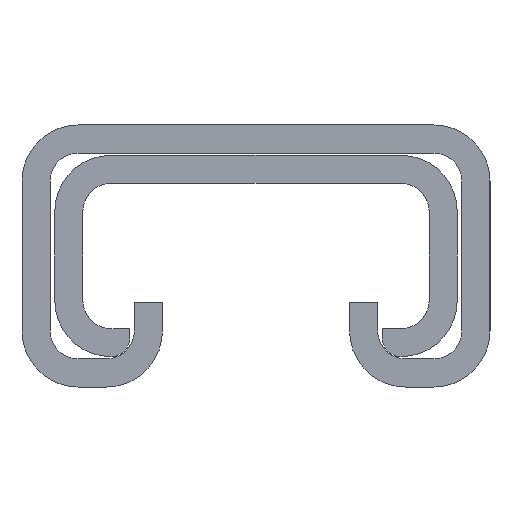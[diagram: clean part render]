
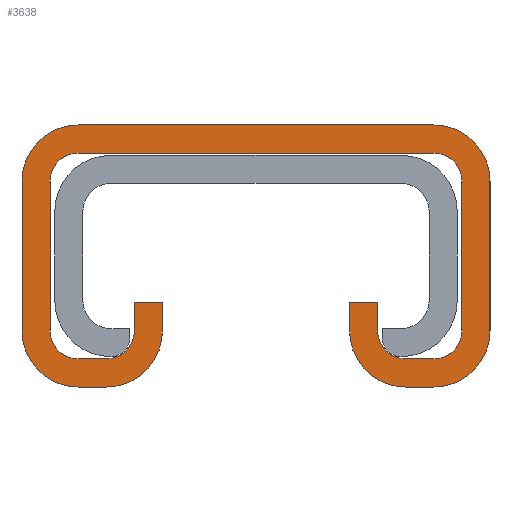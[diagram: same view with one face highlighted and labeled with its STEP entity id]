
A CAD part, left-side view. The second image highlights one B-rep face of the part: STEP entity #3638.
In plain terms, the highlighted planar face has unit normal (-1, 0, 0).
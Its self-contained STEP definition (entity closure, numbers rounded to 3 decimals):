
#186=CARTESIAN_POINT('Vertex',(0.,19.,19.)) ;
#189=CARTESIAN_POINT('Line Origine',(0.,0.,19.)) ;
#193=CARTESIAN_POINT('Vertex',(0.,-19.,19.)) ;
#1667=CARTESIAN_POINT('Vertex',(0.,25.,13.)) ;
#1670=CARTESIAN_POINT('Axis2P3D Location',(0.,19.,13.)) ;
#2030=CARTESIAN_POINT('Vertex',(0.,22.,-3.)) ;
#2044=CARTESIAN_POINT('Vertex',(0.,22.,13.)) ;
#2047=CARTESIAN_POINT('Line Origine',(0.,22.,5.)) ;
#2329=CARTESIAN_POINT('Vertex',(0.,19.,-9.)) ;
#2332=CARTESIAN_POINT('Axis2P3D Location',(0.,19.,-3.)) ;
#2336=CARTESIAN_POINT('Vertex',(0.,25.,-3.)) ;
#2446=CARTESIAN_POINT('Vertex',(0.,-19.,-9.)) ;
#2449=CARTESIAN_POINT('Line Origine',(0.,-17.5,-9.)) ;
#2453=CARTESIAN_POINT('Vertex',(0.,-16.,-9.)) ;
#2473=CARTESIAN_POINT('Axis2P3D Location',(0.,-16.,-3.)) ;
#2477=CARTESIAN_POINT('Vertex',(0.,-10.,-3.)) ;
#2497=CARTESIAN_POINT('Line Origine',(0.,-10.,-1.5)) ;
#2501=CARTESIAN_POINT('Vertex',(0.,-10.,0.)) ;
#2521=CARTESIAN_POINT('Line Origine',(0.,-11.5,0.)) ;
#2525=CARTESIAN_POINT('Vertex',(0.,-13.,0.)) ;
#2549=CARTESIAN_POINT('Vertex',(0.,-13.,-3.)) ;
#2552=CARTESIAN_POINT('Line Origine',(0.,-13.,-1.5)) ;
#2573=CARTESIAN_POINT('Vertex',(0.,-19.,-6.)) ;
#2580=CARTESIAN_POINT('Vertex',(0.,-16.,-6.)) ;
#2583=CARTESIAN_POINT('Line Origine',(0.,-17.5,-6.)) ;
#2604=CARTESIAN_POINT('Vertex',(0.,-22.,-3.)) ;
#2607=CARTESIAN_POINT('Line Origine',(0.,-22.,5.)) ;
#2611=CARTESIAN_POINT('Vertex',(0.,-22.,13.)) ;
#2689=CARTESIAN_POINT('Vertex',(0.,19.,16.)) ;
#2696=CARTESIAN_POINT('Vertex',(0.,-19.,16.)) ;
#2699=CARTESIAN_POINT('Line Origine',(0.,0.,16.)) ;
#2841=CARTESIAN_POINT('Vertex',(0.,16.,-6.)) ;
#2848=CARTESIAN_POINT('Vertex',(0.,19.,-6.)) ;
#2851=CARTESIAN_POINT('Line Origine',(0.,17.5,-6.)) ;
#2867=CARTESIAN_POINT('Vertex',(0.,13.,-3.)) ;
#2870=CARTESIAN_POINT('Line Origine',(0.,13.,-1.5)) ;
#2874=CARTESIAN_POINT('Vertex',(0.,13.,0.)) ;
#2889=CARTESIAN_POINT('Line Origine',(0.,11.5,0.)) ;
#2893=CARTESIAN_POINT('Vertex',(0.,10.,0.)) ;
#2917=CARTESIAN_POINT('Vertex',(0.,10.,-3.)) ;
#2920=CARTESIAN_POINT('Line Origine',(0.,10.,-1.5)) ;
#2937=CARTESIAN_POINT('Axis2P3D Location',(0.,16.,-3.)) ;
#2941=CARTESIAN_POINT('Vertex',(0.,16.,-9.)) ;
#2956=CARTESIAN_POINT('Line Origine',(0.,17.5,-9.)) ;
#2973=CARTESIAN_POINT('Axis2P3D Location',(0.,-19.,13.)) ;
#2977=CARTESIAN_POINT('Vertex',(0.,-25.,13.)) ;
#3001=CARTESIAN_POINT('Vertex',(0.,-25.,-3.)) ;
#3004=CARTESIAN_POINT('Line Origine',(0.,-25.,5.)) ;
#3075=CARTESIAN_POINT('Axis2P3D Location',(0.,-19.,-3.)) ;
#3501=CARTESIAN_POINT('Axis2P3D Location',(0.,16.,-3.)) ;
#3518=CARTESIAN_POINT('Axis2P3D Location',(0.,19.,-3.)) ;
#3535=CARTESIAN_POINT('Axis2P3D Location',(0.,19.,13.)) ;
#3552=CARTESIAN_POINT('Axis2P3D Location',(0.,-19.,13.)) ;
#3569=CARTESIAN_POINT('Axis2P3D Location',(0.,-19.,-3.)) ;
#3586=CARTESIAN_POINT('Axis2P3D Location',(0.,-16.,-3.)) ;
#3598=CARTESIAN_POINT('Axis2P3D Location',(0.,0.,0.)) ;
#3603=CARTESIAN_POINT('Line Origine',(0.,25.,5.)) ;
#190=DIRECTION('Vector Direction',(0.,1.,0.)) ;
#1671=DIRECTION('Axis2P3D Direction',(1.,0.,-0.)) ;
#2048=DIRECTION('Vector Direction',(0.,0.,1.)) ;
#2333=DIRECTION('Axis2P3D Direction',(1.,0.,0.)) ;
#2450=DIRECTION('Vector Direction',(0.,-1.,0.)) ;
#2474=DIRECTION('Axis2P3D Direction',(1.,0.,0.)) ;
#2498=DIRECTION('Vector Direction',(0.,0.,-1.)) ;
#2522=DIRECTION('Vector Direction',(0.,1.,0.)) ;
#2553=DIRECTION('Vector Direction',(0.,0.,1.)) ;
#2584=DIRECTION('Vector Direction',(0.,1.,0.)) ;
#2608=DIRECTION('Vector Direction',(0.,0.,-1.)) ;
#2700=DIRECTION('Vector Direction',(0.,-1.,0.)) ;
#2852=DIRECTION('Vector Direction',(0.,1.,0.)) ;
#2871=DIRECTION('Vector Direction',(0.,0.,-1.)) ;
#2890=DIRECTION('Vector Direction',(0.,1.,0.)) ;
#2921=DIRECTION('Vector Direction',(0.,0.,1.)) ;
#2938=DIRECTION('Axis2P3D Direction',(1.,0.,0.)) ;
#2957=DIRECTION('Vector Direction',(0.,-1.,0.)) ;
#2974=DIRECTION('Axis2P3D Direction',(1.,0.,0.)) ;
#3005=DIRECTION('Vector Direction',(0.,0.,1.)) ;
#3076=DIRECTION('Axis2P3D Direction',(1.,0.,0.)) ;
#3502=DIRECTION('Axis2P3D Direction',(1.,0.,0.)) ;
#3519=DIRECTION('Axis2P3D Direction',(1.,0.,0.)) ;
#3536=DIRECTION('Axis2P3D Direction',(1.,0.,0.)) ;
#3553=DIRECTION('Axis2P3D Direction',(1.,0.,-0.)) ;
#3570=DIRECTION('Axis2P3D Direction',(1.,0.,0.)) ;
#3587=DIRECTION('Axis2P3D Direction',(1.,0.,0.)) ;
#3599=DIRECTION('Axis2P3D Direction',(1.,0.,0.)) ;
#3600=DIRECTION('Axis2P3D XDirection',(0.,1.,0.)) ;
#3604=DIRECTION('Vector Direction',(0.,0.,-1.)) ;
#1672=AXIS2_PLACEMENT_3D('Circle Axis2P3D',#1670,#1671,$) ;
#2334=AXIS2_PLACEMENT_3D('Circle Axis2P3D',#2332,#2333,$) ;
#2475=AXIS2_PLACEMENT_3D('Circle Axis2P3D',#2473,#2474,$) ;
#2939=AXIS2_PLACEMENT_3D('Circle Axis2P3D',#2937,#2938,$) ;
#2975=AXIS2_PLACEMENT_3D('Circle Axis2P3D',#2973,#2974,$) ;
#3077=AXIS2_PLACEMENT_3D('Circle Axis2P3D',#3075,#3076,$) ;
#3503=AXIS2_PLACEMENT_3D('Circle Axis2P3D',#3501,#3502,$) ;
#3520=AXIS2_PLACEMENT_3D('Circle Axis2P3D',#3518,#3519,$) ;
#3537=AXIS2_PLACEMENT_3D('Circle Axis2P3D',#3535,#3536,$) ;
#3554=AXIS2_PLACEMENT_3D('Circle Axis2P3D',#3552,#3553,$) ;
#3571=AXIS2_PLACEMENT_3D('Circle Axis2P3D',#3569,#3570,$) ;
#3588=AXIS2_PLACEMENT_3D('Circle Axis2P3D',#3586,#3587,$) ;
#3601=AXIS2_PLACEMENT_3D('Plane Axis2P3D',#3598,#3599,#3600) ;
#3609=ORIENTED_EDGE('',*,*,#3079,.F.) ;
#3610=ORIENTED_EDGE('',*,*,#3008,.F.) ;
#3611=ORIENTED_EDGE('',*,*,#2979,.F.) ;
#3612=ORIENTED_EDGE('',*,*,#195,.F.) ;
#3613=ORIENTED_EDGE('',*,*,#1674,.F.) ;
#3614=ORIENTED_EDGE('',*,*,#3607,.F.) ;
#3615=ORIENTED_EDGE('',*,*,#2338,.F.) ;
#3616=ORIENTED_EDGE('',*,*,#2960,.F.) ;
#3617=ORIENTED_EDGE('',*,*,#2943,.F.) ;
#3618=ORIENTED_EDGE('',*,*,#2924,.F.) ;
#3619=ORIENTED_EDGE('',*,*,#2895,.F.) ;
#3620=ORIENTED_EDGE('',*,*,#2876,.F.) ;
#3621=ORIENTED_EDGE('',*,*,#3505,.T.) ;
#3622=ORIENTED_EDGE('',*,*,#2855,.F.) ;
#3623=ORIENTED_EDGE('',*,*,#3522,.T.) ;
#3624=ORIENTED_EDGE('',*,*,#2051,.F.) ;
#3625=ORIENTED_EDGE('',*,*,#3539,.T.) ;
#3626=ORIENTED_EDGE('',*,*,#2703,.F.) ;
#3627=ORIENTED_EDGE('',*,*,#3556,.T.) ;
#3628=ORIENTED_EDGE('',*,*,#2613,.F.) ;
#3629=ORIENTED_EDGE('',*,*,#3573,.T.) ;
#3630=ORIENTED_EDGE('',*,*,#2587,.F.) ;
#3631=ORIENTED_EDGE('',*,*,#3590,.T.) ;
#3632=ORIENTED_EDGE('',*,*,#2556,.F.) ;
#3633=ORIENTED_EDGE('',*,*,#2527,.F.) ;
#3634=ORIENTED_EDGE('',*,*,#2503,.F.) ;
#3635=ORIENTED_EDGE('',*,*,#2479,.F.) ;
#3636=ORIENTED_EDGE('',*,*,#2455,.F.) ;
#191=VECTOR('Line Direction',#190,1.) ;
#2049=VECTOR('Line Direction',#2048,1.) ;
#2451=VECTOR('Line Direction',#2450,1.) ;
#2499=VECTOR('Line Direction',#2498,1.) ;
#2523=VECTOR('Line Direction',#2522,1.) ;
#2554=VECTOR('Line Direction',#2553,1.) ;
#2585=VECTOR('Line Direction',#2584,1.) ;
#2609=VECTOR('Line Direction',#2608,1.) ;
#2701=VECTOR('Line Direction',#2700,1.) ;
#2853=VECTOR('Line Direction',#2852,1.) ;
#2872=VECTOR('Line Direction',#2871,1.) ;
#2891=VECTOR('Line Direction',#2890,1.) ;
#2922=VECTOR('Line Direction',#2921,1.) ;
#2958=VECTOR('Line Direction',#2957,1.) ;
#3006=VECTOR('Line Direction',#3005,1.) ;
#3605=VECTOR('Line Direction',#3604,1.) ;
#3638=ADVANCED_FACE('Corps principal',(#3637),#3602,.F.) ;
#1673=CIRCLE('generated circle',#1672,6.) ;
#2335=CIRCLE('generated circle',#2334,6.) ;
#2476=CIRCLE('generated circle',#2475,6.) ;
#2940=CIRCLE('generated circle',#2939,6.) ;
#2976=CIRCLE('generated circle',#2975,6.) ;
#3078=CIRCLE('generated circle',#3077,6.) ;
#3504=CIRCLE('generated circle',#3503,3.) ;
#3521=CIRCLE('generated circle',#3520,3.) ;
#3538=CIRCLE('generated circle',#3537,3.) ;
#3555=CIRCLE('generated circle',#3554,3.) ;
#3572=CIRCLE('generated circle',#3571,3.) ;
#3589=CIRCLE('generated circle',#3588,3.) ;
#195=EDGE_CURVE('',#187,#194,#192,.F.) ;
#1674=EDGE_CURVE('',#1668,#187,#1673,.T.) ;
#2051=EDGE_CURVE('',#2045,#2031,#2050,.F.) ;
#2338=EDGE_CURVE('',#2330,#2337,#2335,.T.) ;
#2455=EDGE_CURVE('',#2447,#2454,#2452,.F.) ;
#2479=EDGE_CURVE('',#2454,#2478,#2476,.T.) ;
#2503=EDGE_CURVE('',#2478,#2502,#2500,.F.) ;
#2527=EDGE_CURVE('',#2502,#2526,#2524,.F.) ;
#2556=EDGE_CURVE('',#2526,#2550,#2555,.F.) ;
#2587=EDGE_CURVE('',#2581,#2574,#2586,.F.) ;
#2613=EDGE_CURVE('',#2605,#2612,#2610,.F.) ;
#2703=EDGE_CURVE('',#2697,#2690,#2702,.F.) ;
#2855=EDGE_CURVE('',#2849,#2842,#2854,.F.) ;
#2876=EDGE_CURVE('',#2868,#2875,#2873,.F.) ;
#2895=EDGE_CURVE('',#2875,#2894,#2892,.F.) ;
#2924=EDGE_CURVE('',#2894,#2918,#2923,.F.) ;
#2943=EDGE_CURVE('',#2918,#2942,#2940,.T.) ;
#2960=EDGE_CURVE('',#2942,#2330,#2959,.F.) ;
#2979=EDGE_CURVE('',#194,#2978,#2976,.T.) ;
#3008=EDGE_CURVE('',#2978,#3002,#3007,.F.) ;
#3079=EDGE_CURVE('',#3002,#2447,#3078,.T.) ;
#3505=EDGE_CURVE('',#2868,#2842,#3504,.T.) ;
#3522=EDGE_CURVE('',#2849,#2031,#3521,.T.) ;
#3539=EDGE_CURVE('',#2045,#2690,#3538,.T.) ;
#3556=EDGE_CURVE('',#2697,#2612,#3555,.T.) ;
#3573=EDGE_CURVE('',#2605,#2574,#3572,.T.) ;
#3590=EDGE_CURVE('',#2581,#2550,#3589,.T.) ;
#3607=EDGE_CURVE('',#2337,#1668,#3606,.F.) ;
#3608=EDGE_LOOP('',(#3609,#3610,#3611,#3612,#3613,#3614,#3615,#3616,#3617,#3618,#3619,#3620,#3621,#3622,#3623,#3624,#3625,#3626,#3627,#3628,#3629,#3630,#3631,#3632,#3633,#3634,#3635,#3636)) ;
#3637=FACE_OUTER_BOUND('',#3608,.T.) ;
#192=LINE('Line',#189,#191) ;
#2050=LINE('Line',#2047,#2049) ;
#2452=LINE('Line',#2449,#2451) ;
#2500=LINE('Line',#2497,#2499) ;
#2524=LINE('Line',#2521,#2523) ;
#2555=LINE('Line',#2552,#2554) ;
#2586=LINE('Line',#2583,#2585) ;
#2610=LINE('Line',#2607,#2609) ;
#2702=LINE('Line',#2699,#2701) ;
#2854=LINE('Line',#2851,#2853) ;
#2873=LINE('Line',#2870,#2872) ;
#2892=LINE('Line',#2889,#2891) ;
#2923=LINE('Line',#2920,#2922) ;
#2959=LINE('Line',#2956,#2958) ;
#3007=LINE('Line',#3004,#3006) ;
#3606=LINE('Line',#3603,#3605) ;
#3602=PLANE('Plane',#3601) ;
#187=VERTEX_POINT('',#186) ;
#194=VERTEX_POINT('',#193) ;
#1668=VERTEX_POINT('',#1667) ;
#2031=VERTEX_POINT('',#2030) ;
#2045=VERTEX_POINT('',#2044) ;
#2330=VERTEX_POINT('',#2329) ;
#2337=VERTEX_POINT('',#2336) ;
#2447=VERTEX_POINT('',#2446) ;
#2454=VERTEX_POINT('',#2453) ;
#2478=VERTEX_POINT('',#2477) ;
#2502=VERTEX_POINT('',#2501) ;
#2526=VERTEX_POINT('',#2525) ;
#2550=VERTEX_POINT('',#2549) ;
#2574=VERTEX_POINT('',#2573) ;
#2581=VERTEX_POINT('',#2580) ;
#2605=VERTEX_POINT('',#2604) ;
#2612=VERTEX_POINT('',#2611) ;
#2690=VERTEX_POINT('',#2689) ;
#2697=VERTEX_POINT('',#2696) ;
#2842=VERTEX_POINT('',#2841) ;
#2849=VERTEX_POINT('',#2848) ;
#2868=VERTEX_POINT('',#2867) ;
#2875=VERTEX_POINT('',#2874) ;
#2894=VERTEX_POINT('',#2893) ;
#2918=VERTEX_POINT('',#2917) ;
#2942=VERTEX_POINT('',#2941) ;
#2978=VERTEX_POINT('',#2977) ;
#3002=VERTEX_POINT('',#3001) ;
